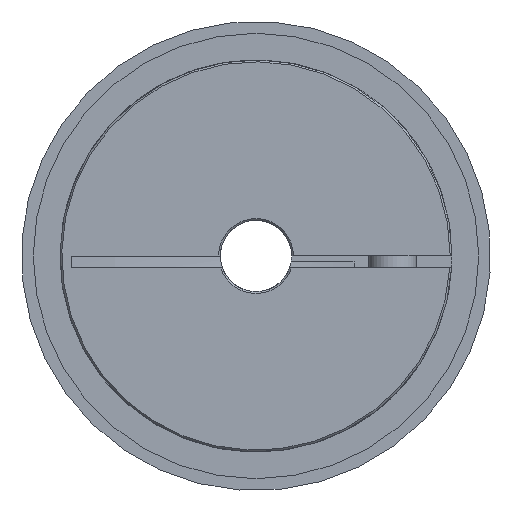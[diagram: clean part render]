
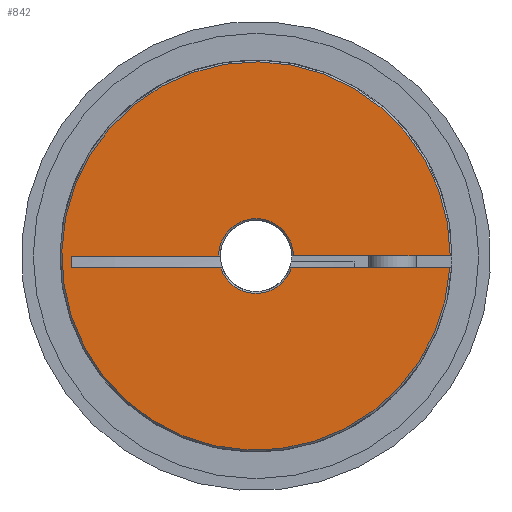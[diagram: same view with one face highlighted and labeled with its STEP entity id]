
A CAD part, left-side view. The second image highlights one B-rep face of the part: STEP entity #842.
In plain terms, the highlighted planar face has unit normal (-1, 0, 0) as drawn and (0, 0, 1) by its records, which use the part's own axes.
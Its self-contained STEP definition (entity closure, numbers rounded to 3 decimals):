
#842 = ADVANCED_FACE( 'NONE', ( #1715 ), #1716, .T. );
#1715 = FACE_OUTER_BOUND( '', #2546, .T. );
#1716 = PLANE( '', #2547 );
#2546 = EDGE_LOOP( '', ( #3975, #3976, #3977, #3978, #3979, #3980, #3981, #3982 ) );
#2547 = AXIS2_PLACEMENT_3D( '', #3983, #3984, #3985 );
#3975 = ORIENTED_EDGE( '', *, *, #4642, .F. );
#3976 = ORIENTED_EDGE( '', *, *, #4204, .T. );
#3977 = ORIENTED_EDGE( '', *, *, #4158, .F. );
#3978 = ORIENTED_EDGE( '', *, *, #4199, .T. );
#3979 = ORIENTED_EDGE( '', *, *, #4621, .T. );
#3980 = ORIENTED_EDGE( '', *, *, #4483, .T. );
#3981 = ORIENTED_EDGE( '', *, *, #4643, .T. );
#3982 = ORIENTED_EDGE( '', *, *, #4608, .F. );
#3983 = CARTESIAN_POINT( '', ( 0., 0., 29. ) );
#3984 = DIRECTION( '', ( 0., 0., 1. ) );
#3985 = DIRECTION( '', ( 1., 0., 0. ) );
#4158 = EDGE_CURVE( 'NONE', #4729, #4730, #4731, .F. );
#4199 = EDGE_CURVE( 'NONE', #4729, #4798, #4800, .T. );
#4204 = EDGE_CURVE( 'NONE', #4807, #4730, #4808, .F. );
#4483 = EDGE_CURVE( 'NONE', #5239, #5236, #5240, .F. );
#4608 = EDGE_CURVE( 'NONE', #5393, #5394, #5395, .F. );
#4621 = EDGE_CURVE( 'NONE', #4798, #5239, #5411, .T. );
#4642 = EDGE_CURVE( 'NONE', #4807, #5393, #5434, .F. );
#4643 = EDGE_CURVE( 'NONE', #5236, #5394, #5435, .T. );
#4729 = VERTEX_POINT( 'NONE', #5736 );
#4730 = VERTEX_POINT( 'NONE', #5737 );
#4731 = LINE( '', #5738, #5739 );
#4798 = VERTEX_POINT( 'NONE', #5815 );
#4800 = CIRCLE( '', #5820, 32.7 );
#4807 = VERTEX_POINT( 'NONE', #5827 );
#4808 = CIRCLE( '', #5828, 6.3 );
#5236 = VERTEX_POINT( 'NONE', #6469 );
#5239 = VERTEX_POINT( 'NONE', #6475 );
#5240 = CIRCLE( '', #6476, 6.3 );
#5393 = VERTEX_POINT( 'NONE', #6733 );
#5394 = VERTEX_POINT( 'NONE', #6734 );
#5395 = LINE( '', #6735, #6736 );
#5411 = LINE( '', #6854, #6855 );
#5434 = LINE( '', #6880, #6881 );
#5435 = LINE( '', #6882, #6883 );
#5736 = CARTESIAN_POINT( '', ( 32.7, 0., 29. ) );
#5737 = CARTESIAN_POINT( '', ( 6.3, 0., 29. ) );
#5738 = CARTESIAN_POINT( '', ( 16.5, 0., 29. ) );
#5739 = VECTOR( '', #6956, 1000. );
#5815 = CARTESIAN_POINT( '', ( 32.639, -2., 29. ) );
#5820 = AXIS2_PLACEMENT_3D( '', #7029, #7030, #7031 );
#5827 = CARTESIAN_POINT( '', ( -6.3, 0., 29. ) );
#5828 = AXIS2_PLACEMENT_3D( '', #7038, #7039, #7040 );
#6469 = CARTESIAN_POINT( '', ( -5.974, -2., 29. ) );
#6475 = CARTESIAN_POINT( '', ( 5.974, -2., 29. ) );
#6476 = AXIS2_PLACEMENT_3D( '', #7443, #7444, #7445 );
#6733 = CARTESIAN_POINT( '', ( -31.103, 0., 29. ) );
#6734 = CARTESIAN_POINT( '', ( -31.103, -2., 29. ) );
#6735 = CARTESIAN_POINT( '', ( -31.103, -2., 29. ) );
#6736 = VECTOR( '', #7568, 1000. );
#6854 = CARTESIAN_POINT( '', ( 0., -2., 29. ) );
#6855 = VECTOR( '', #7581, 1000. );
#6880 = CARTESIAN_POINT( '', ( 16.5, 0., 29. ) );
#6881 = VECTOR( '', #7599, 1000. );
#6882 = CARTESIAN_POINT( '', ( 0., -2., 29. ) );
#6883 = VECTOR( '', #7600, 1000. );
#6956 = DIRECTION( '', ( 1., 0., 0. ) );
#7029 = CARTESIAN_POINT( '', ( 0., 0., 29. ) );
#7030 = DIRECTION( '', ( 0., 0., 1. ) );
#7031 = DIRECTION( '', ( 1., 0., 0. ) );
#7038 = CARTESIAN_POINT( '', ( 0., 0., 29. ) );
#7039 = DIRECTION( '', ( 0., 0., 1. ) );
#7040 = DIRECTION( '', ( 1., 0., 0. ) );
#7443 = CARTESIAN_POINT( '', ( 0., 0., 29. ) );
#7444 = DIRECTION( '', ( 0., 0., 1. ) );
#7445 = DIRECTION( '', ( 1., 0., 0. ) );
#7568 = DIRECTION( '', ( 0., 1., 0. ) );
#7581 = DIRECTION( '', ( -1., 0., 0. ) );
#7599 = DIRECTION( '', ( 1., 0., 0. ) );
#7600 = DIRECTION( '', ( -1., 0., 0. ) );
